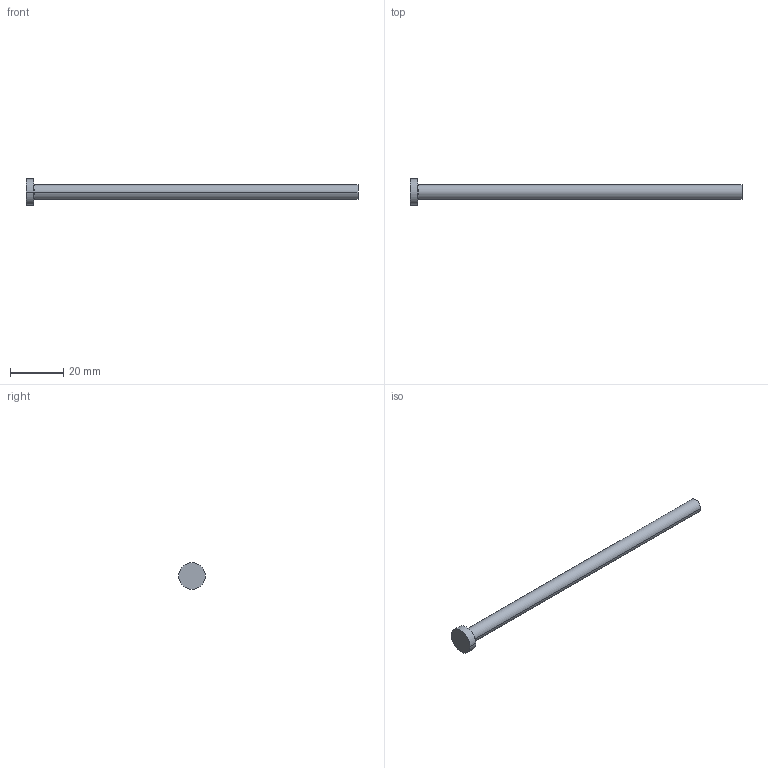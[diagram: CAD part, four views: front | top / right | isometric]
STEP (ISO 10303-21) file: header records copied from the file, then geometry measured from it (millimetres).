
FILE_DESCRIPTION (( 'STEP AP214' ), '1' );
FILE_NAME ('A-5,5x125.STEP', '2020-05-29T10:33:06', ( 'August' ), ( '' ), 'SwSTEP 2.0', 'SolidWorks 2018', '' );
FILE_SCHEMA (( 'AUTOMOTIVE_DESIGN' ));
Length unit declared in the file: millimetre
Products named in the file (1): A-5,5x125
Bounding box: 125 x 10 x 10 mm (x, y, z)
Volume: 3134.5 mm3; surface area: 2357.2 mm2
Topology: 1 solids, 1 shells, 9 faces, 16 edges, 10 vertices
Faces by surface type: cylinder 4, plane 3, torus 2
Entity records: 260 total; most frequent: DIRECTION 48, CARTESIAN_POINT 36, ORIENTED_EDGE 32, AXIS2_PLACEMENT_3D 22, EDGE_CURVE 16, CIRCLE 12, EDGE_LOOP 10, VERTEX_POINT 10
